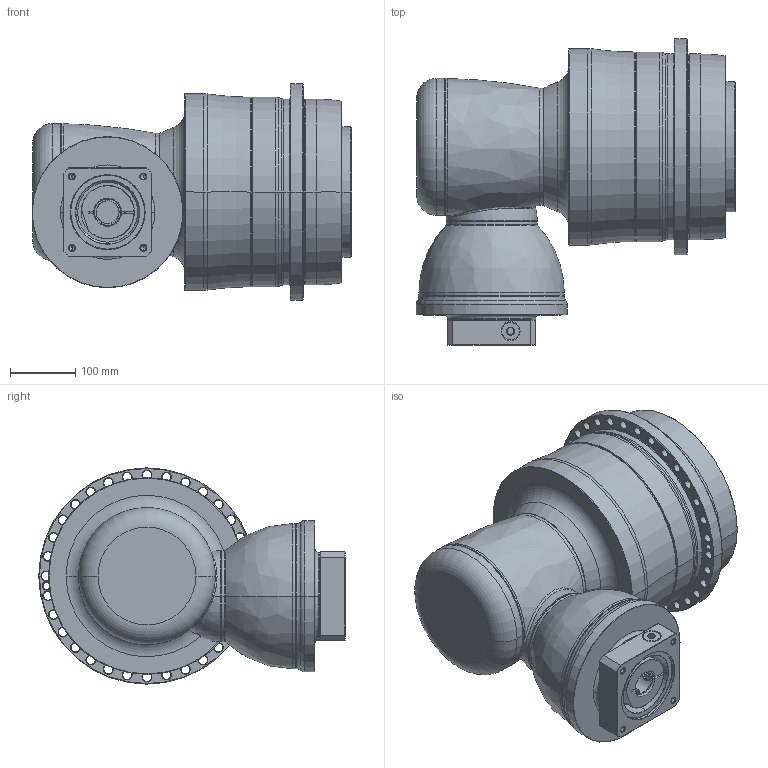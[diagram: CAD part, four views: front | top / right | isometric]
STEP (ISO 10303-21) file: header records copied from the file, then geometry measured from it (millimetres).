
FILE_DESCRIPTION((''),'2;1');
FILE_NAME('APK285_3ST_35-P0409800201_ASM','2018-11-22T',('D00080'),(''),'PRO/ENGINEER BY PARAMETRIC TECHNOLOGY CORPORATION, 2015240','PRO/ENGINEER BY PARAMETRIC TECHNOLOGY CORPORATION, 2015240','');
FILE_SCHEMA(('CONFIG_CONTROL_DESIGN'));
Length unit declared in the file: millimetre
Products named in the file (13): P1008600002; P1832810001; P0278801003; P0359801103; P1211800001; P1315600001; P1007601001; P1318610101; P0503800012; P0912601001; P0409800201; 21711422019; APK285_3ST_35-P0409800201_ASM
Assembly tree (12 placements, depth 2):
  APK285_3ST_35-P0409800201_ASM
    P1008600002
    P1832810001
    P0278801003
    P0359801103
    P1211800001
    P1315600001
    P1007601001
    P1318610101
    P0503800012
    P0912601001
    P0409800201
    21711422019
Bounding box: 491 x 470.5 x 332 mm (x, y, z)
Volume: 29207109.9 mm3; surface area: 1690758.7 mm2
Topology: 13 solids, 36 shells, 804 faces, 1823 edges, 1089 vertices
Faces by surface type: cylinder 309, cone 254, plane 122, torus 84, bspline 33, sphere 2
Entity records: 29053 total; most frequent: CARTESIAN_POINT 10310, DIRECTION 4307, ORIENTED_EDGE 3480, AXIS2_PLACEMENT_3D 1839, EDGE_CURVE 1787, VERTEX_POINT 1089, CIRCLE 1031, EDGE_LOOP 968
